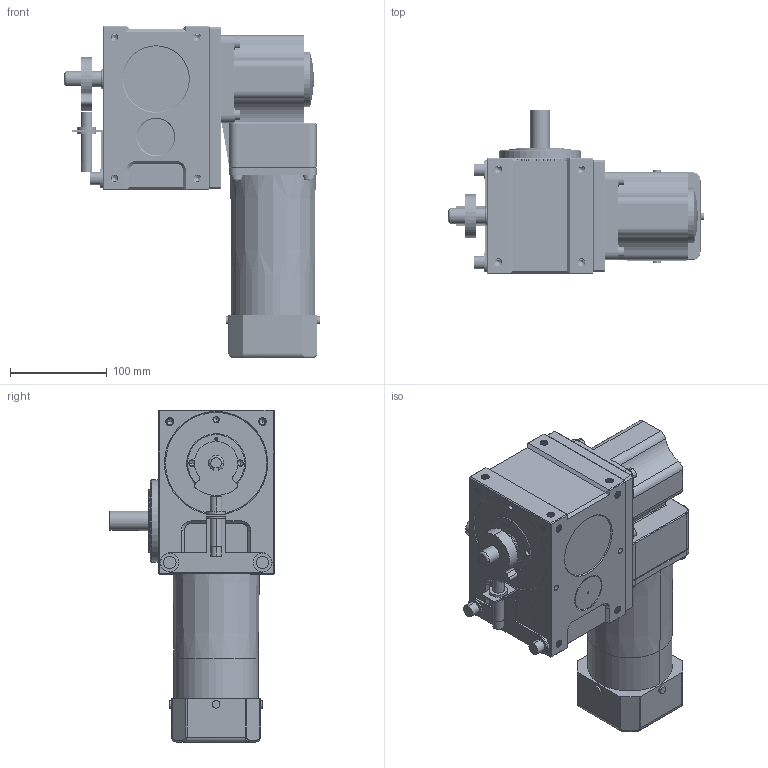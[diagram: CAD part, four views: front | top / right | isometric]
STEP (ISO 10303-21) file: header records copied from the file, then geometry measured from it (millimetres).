
FILE_DESCRIPTION (( 'STEP AP214' ), '1' );
FILE_NAME ('ER-RU60DE英锐凸轮分割器壳体法兰面销孔3D水平直联式右侧ZD(电话15062628977)AA.STEP', '2022-06-18T10:42:30', ( '微软用户' ), ( '微软中国' ), 'SwSTEP 2.0', 'SolidWorks 2017', '' );
FILE_SCHEMA (( 'AUTOMOTIVE_DESIGN' ));
Length unit declared in the file: millimetre
Products named in the file (1): ER-RU60DE英锐凸轮分割器壳体法兰面销孔3D水平直联式右侧ZD(电话15062628977)AA
Bounding box: 264.5 x 170 x 344 mm (x, y, z)
Volume: 4728532.1 mm3; surface area: 334423.3 mm2
Topology: 3 solids, 4 shells, 2347 faces, 6038 edges, 3790 vertices
Faces by surface type: cylinder 912, plane 536, bspline 518, cone 354, torus 25, sphere 2
Entity records: 185684 total; most frequent: CARTESIAN_POINT 135824, ORIENTED_EDGE 11904, DIRECTION 7760, EDGE_CURVE 5952, VERTEX_POINT 3790, AXIS2_PLACEMENT_3D 2747, EDGE_LOOP 2566, ADVANCED_FACE 2347
